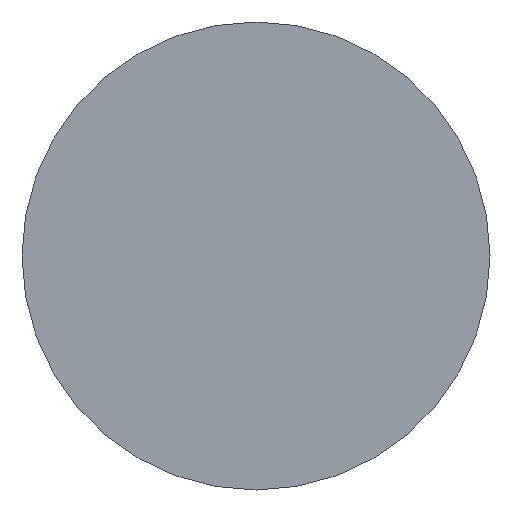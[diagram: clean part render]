
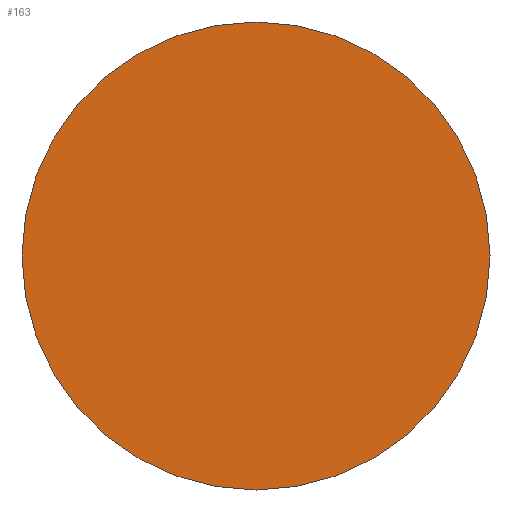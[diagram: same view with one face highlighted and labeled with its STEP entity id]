
A CAD part, left-side view. The second image highlights one B-rep face of the part: STEP entity #163.
In plain terms, the highlighted planar face has unit normal (-1, 0, 0).
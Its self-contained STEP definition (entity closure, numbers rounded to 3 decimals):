
#12 = CIRCLE ( 'NONE', #23, 2.5 ) ;
#22 = DIRECTION ( 'NONE',  ( 0., -1., 0. ) ) ;
#23 = AXIS2_PLACEMENT_3D ( 'NONE', #161, #229, #204 ) ;
#29 = CARTESIAN_POINT ( 'NONE',  ( 0., 2.5, 0. ) ) ;
#40 = DIRECTION ( 'NONE',  ( -1., 0., 0. ) ) ;
#59 = CARTESIAN_POINT ( 'NONE',  ( 0., 0., 0. ) ) ;
#64 = ORIENTED_EDGE ( 'NONE', *, *, #220, .F. ) ;
#68 = DIRECTION ( 'NONE',  ( 0., 1., 0. ) ) ;
#103 = AXIS2_PLACEMENT_3D ( 'NONE', #59, #40, #22 ) ;
#107 = FACE_OUTER_BOUND ( 'NONE', #182, .T. ) ;
#161 = CARTESIAN_POINT ( 'NONE',  ( 0., 0., 0. ) ) ;
#163 = ADVANCED_FACE ( 'NONE', ( #107 ), #255, .T. ) ;
#168 = AXIS2_PLACEMENT_3D ( 'NONE', #199, #249, #68 ) ;
#182 = EDGE_LOOP ( 'NONE', ( #241, #64 ) ) ;
#198 = EDGE_CURVE ( 'NONE', #217, #208, #200, .T. ) ;
#199 = CARTESIAN_POINT ( 'NONE',  ( 0., 0., 0. ) ) ;
#200 = CIRCLE ( 'NONE', #168, 2.5 ) ;
#204 = DIRECTION ( 'NONE',  ( 0., 1., 0. ) ) ;
#208 = VERTEX_POINT ( 'NONE', #231 ) ;
#217 = VERTEX_POINT ( 'NONE', #29 ) ;
#220 = EDGE_CURVE ( 'NONE', #208, #217, #12, .T. ) ;
#229 = DIRECTION ( 'NONE',  ( 1., 0., 0. ) ) ;
#231 = CARTESIAN_POINT ( 'NONE',  ( 0., -2.5, 0. ) ) ;
#241 = ORIENTED_EDGE ( 'NONE', *, *, #198, .F. ) ;
#249 = DIRECTION ( 'NONE',  ( 1., 0., 0. ) ) ;
#255 = PLANE ( 'NONE',  #103 ) ;
